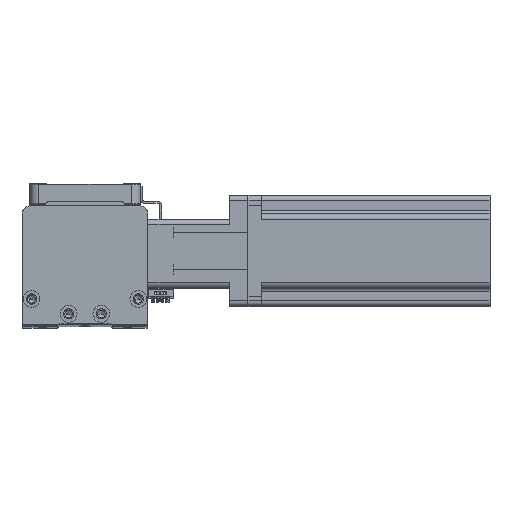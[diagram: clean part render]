
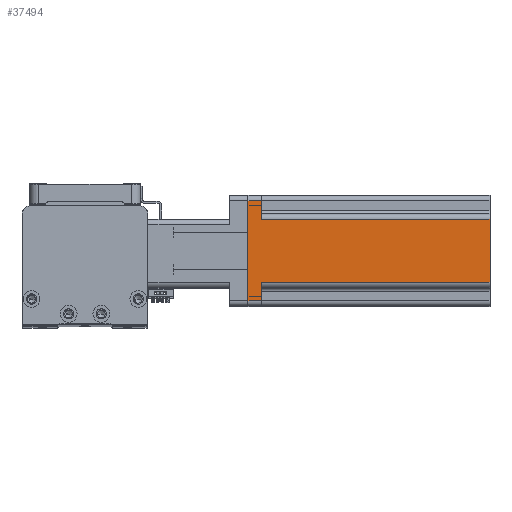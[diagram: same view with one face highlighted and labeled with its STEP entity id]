
A CAD part, top view. The second image highlights one B-rep face of the part: STEP entity #37494.
In plain terms, the highlighted planar face has unit normal (0, 0, 1) as drawn and (1, 0, 0) by its records, which use the part's own axes.
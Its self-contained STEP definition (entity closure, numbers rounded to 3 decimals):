
#2992 = LINE ( 'NONE', #28912, #29684 ) ;
#3748 = CARTESIAN_POINT ( 'NONE',  ( 30., -30., 130.7 ) ) ;
#4221 = VERTEX_POINT ( 'NONE', #39708 ) ;
#4419 = FACE_OUTER_BOUND ( 'NONE', #39512, .T. ) ;
#5277 = LINE ( 'NONE', #42430, #40258 ) ;
#5383 = LINE ( 'NONE', #25894, #41447 ) ;
#6053 = ORIENTED_EDGE ( 'NONE', *, *, #17876, .T. ) ;
#6237 = DIRECTION ( 'NONE',  ( 0., 1., 0. ) ) ;
#6283 = LINE ( 'NONE', #17966, #32957 ) ;
#7207 = DIRECTION ( 'NONE',  ( 0., -1., 0. ) ) ;
#7280 = DIRECTION ( 'NONE',  ( 0., 0., 1. ) ) ;
#8041 = CARTESIAN_POINT ( 'NONE',  ( 30., 30., 7.5 ) ) ;
#8060 = DIRECTION ( 'NONE',  ( 0., 0., -1. ) ) ;
#8429 = EDGE_CURVE ( 'NONE', #37667, #4221, #5383, .T. ) ;
#9858 = ORIENTED_EDGE ( 'NONE', *, *, #27816, .F. ) ;
#10475 = ORIENTED_EDGE ( 'NONE', *, *, #27909, .T. ) ;
#10869 = EDGE_CURVE ( 'NONE', #4221, #39168, #28705, .T. ) ;
#11316 = VECTOR ( 'NONE', #7207, 1000. ) ;
#11869 = VECTOR ( 'NONE', #28888, 1000. ) ;
#13680 = ORIENTED_EDGE ( 'NONE', *, *, #10869, .T. ) ;
#15598 = CARTESIAN_POINT ( 'NONE',  ( 30., -30., 0. ) ) ;
#16783 = CARTESIAN_POINT ( 'NONE',  ( 30., 27., 0. ) ) ;
#17616 = EDGE_CURVE ( 'NONE', #37667, #27896, #37863, .T. ) ;
#17876 = EDGE_CURVE ( 'NONE', #39168, #43204, #2992, .T. ) ;
#17966 = CARTESIAN_POINT ( 'NONE',  ( 30., 27., 130.7 ) ) ;
#18225 = CARTESIAN_POINT ( 'NONE',  ( 30., -27., 0. ) ) ;
#19099 = DIRECTION ( 'NONE',  ( 0., 1., 0. ) ) ;
#19245 = VERTEX_POINT ( 'NONE', #27012 ) ;
#21624 = DIRECTION ( 'NONE',  ( 0., 0., 1. ) ) ;
#22300 = CARTESIAN_POINT ( 'NONE',  ( 30., -17., 130.7 ) ) ;
#22482 = CARTESIAN_POINT ( 'NONE',  ( 30., 17., 130.7 ) ) ;
#22626 = EDGE_CURVE ( 'NONE', #45190, #19245, #6283, .T. ) ;
#24793 = ORIENTED_EDGE ( 'NONE', *, *, #17616, .F. ) ;
#25894 = CARTESIAN_POINT ( 'NONE',  ( 30., -17., 7.5 ) ) ;
#26968 = AXIS2_PLACEMENT_3D ( 'NONE', #3748, #28079, #7280 ) ;
#27012 = CARTESIAN_POINT ( 'NONE',  ( 30., 27., 7.5 ) ) ;
#27816 = EDGE_CURVE ( 'NONE', #37470, #19245, #30392, .T. ) ;
#27896 = VERTEX_POINT ( 'NONE', #22482 ) ;
#27909 = EDGE_CURVE ( 'NONE', #43204, #45190, #38065, .T. ) ;
#27936 = CARTESIAN_POINT ( 'NONE',  ( 30., 17., 7.5 ) ) ;
#28079 = DIRECTION ( 'NONE',  ( -1., 0., 0. ) ) ;
#28505 = VECTOR ( 'NONE', #6237, 1000. ) ;
#28699 = VECTOR ( 'NONE', #19099, 1000. ) ;
#28705 = LINE ( 'NONE', #35103, #11316 ) ;
#28888 = DIRECTION ( 'NONE',  ( 0., 1., 0. ) ) ;
#28912 = CARTESIAN_POINT ( 'NONE',  ( 30., -27., 130.7 ) ) ;
#29684 = VECTOR ( 'NONE', #8060, 1000. ) ;
#30392 = LINE ( 'NONE', #8041, #11869 ) ;
#31479 = PLANE ( 'NONE',  #26968 ) ;
#32957 = VECTOR ( 'NONE', #38961, 1000. ) ;
#33182 = ORIENTED_EDGE ( 'NONE', *, *, #22626, .T. ) ;
#34200 = ORIENTED_EDGE ( 'NONE', *, *, #8429, .T. ) ;
#35103 = CARTESIAN_POINT ( 'NONE',  ( 30., -30., 7.5 ) ) ;
#37470 = VERTEX_POINT ( 'NONE', #27936 ) ;
#37494 = ADVANCED_FACE ( 'NONE', ( #4419 ), #31479, .F. ) ;
#37667 = VERTEX_POINT ( 'NONE', #22300 ) ;
#37863 = LINE ( 'NONE', #41048, #28505 ) ;
#38065 = LINE ( 'NONE', #15598, #28699 ) ;
#38961 = DIRECTION ( 'NONE',  ( 0., 0., 1. ) ) ;
#39168 = VERTEX_POINT ( 'NONE', #39916 ) ;
#39512 = EDGE_LOOP ( 'NONE', ( #24793, #34200, #13680, #6053, #10475, #33182, #9858, #42110 ) ) ;
#39708 = CARTESIAN_POINT ( 'NONE',  ( 30., -17., 7.5 ) ) ;
#39916 = CARTESIAN_POINT ( 'NONE',  ( 30., -27., 7.5 ) ) ;
#39990 = DIRECTION ( 'NONE',  ( 0., 0., -1. ) ) ;
#40258 = VECTOR ( 'NONE', #21624, 1000. ) ;
#40285 = EDGE_CURVE ( 'NONE', #37470, #27896, #5277, .T. ) ;
#41048 = CARTESIAN_POINT ( 'NONE',  ( 30., -30., 130.7 ) ) ;
#41447 = VECTOR ( 'NONE', #39990, 1000. ) ;
#42110 = ORIENTED_EDGE ( 'NONE', *, *, #40285, .T. ) ;
#42430 = CARTESIAN_POINT ( 'NONE',  ( 30., 17., 130.7 ) ) ;
#43204 = VERTEX_POINT ( 'NONE', #18225 ) ;
#45190 = VERTEX_POINT ( 'NONE', #16783 ) ;
